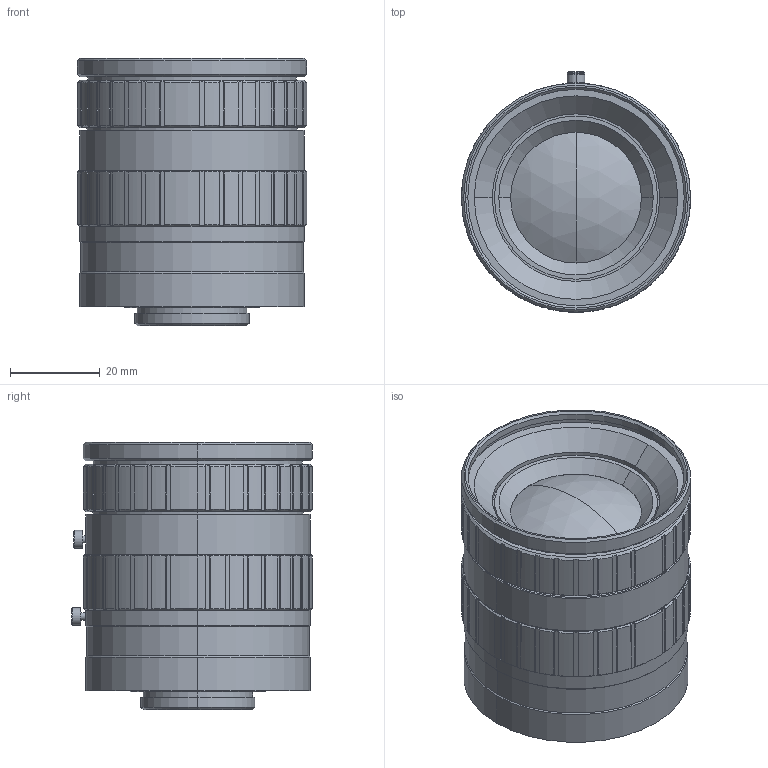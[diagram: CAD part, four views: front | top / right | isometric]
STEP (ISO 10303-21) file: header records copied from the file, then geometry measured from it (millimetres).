
FILE_DESCRIPTION (( 'STEP AP214' ), '1' );
FILE_NAME ('HF50SA-1_3D_Modeling.STEP', '2016-06-07T04:27:38', ( '富士フイルム株式会社' ), ( '富士フイルム株式会社' ), 'SwSTEP 2.0', 'SolidWorks 2014', '' );
FILE_SCHEMA (( 'AUTOMOTIVE_DESIGN' ));
Length unit declared in the file: millimetre
Products named in the file (1): HF50SA-1_3D_Modeling
Bounding box: 51 x 53.6 x 59.49 mm (x, y, z)
Volume: 98814.9 mm3; surface area: 16011.3 mm2
Topology: 1 solids, 1 shells, 351 faces, 962 edges, 632 vertices
Faces by surface type: cylinder 168, plane 147, cone 32, sphere 4
Entity records: 11660 total; most frequent: CARTESIAN_POINT 2866, ORIENTED_EDGE 1924, DIRECTION 1780, EDGE_CURVE 962, AXIS2_PLACEMENT_3D 726, VERTEX_POINT 632, CIRCLE 374, EDGE_LOOP 370
